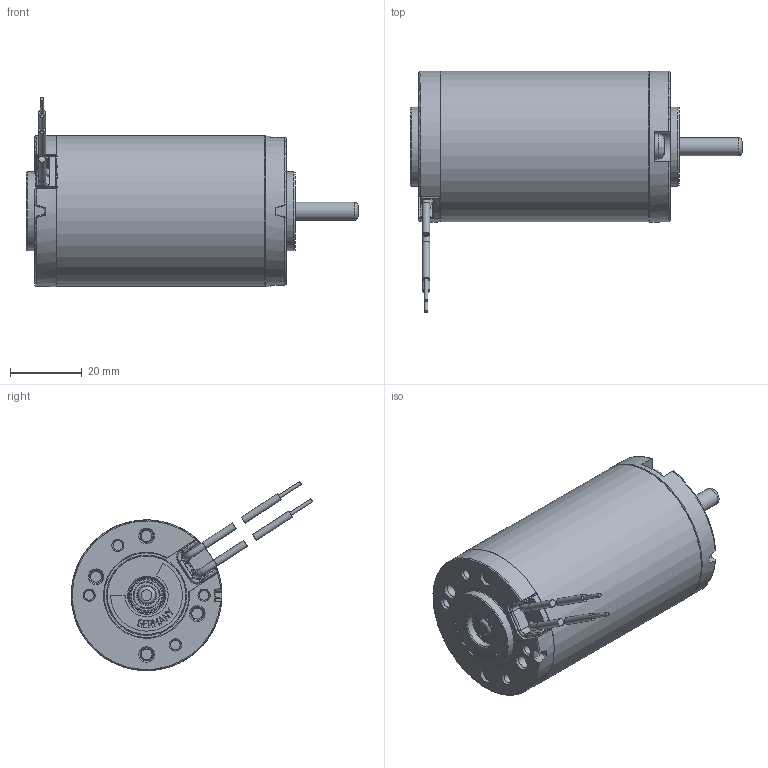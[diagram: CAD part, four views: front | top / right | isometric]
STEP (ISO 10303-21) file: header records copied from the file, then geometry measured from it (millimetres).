
FILE_DESCRIPTION(/* description */ (''),/* implementation_level */ '2;1');
FILE_NAME(/* name */ 'M42x15.stp',/* time_stamp */ '2014-02-27T10:40:20+01:00',/* author */ ('KÃ¤hlig'),/* organization */ ('KÃ¤hlig Antriebstechnik GmbH'),/* preprocessor_version */ 'ST-DEVELOPER v11',/* originating_system */ 'SIEMENS UGS NX 6.0',/* authorisation */ 'Weitergabe an dritte nicht zulÃ¤ssig');
FILE_SCHEMA (('AUTOMOTIVE_DESIGN { 1 0 10303 214 1 1 1 1 }'));
Length unit declared in the file: millimetre
Products named in the file (1): Schi3A10n9jt
Bounding box: 92.5 x 67.3 x 52.72 mm (x, y, z)
Volume: 39315.1 mm3; surface area: 36535.1 mm2
Topology: 19 solids, 19 shells, 2379 faces, 5784 edges, 3705 vertices
Faces by surface type: plane 1626, cylinder 408, torus 168, cone 85, bspline 43, sphere 37, extrusion 12
Full cylindrical faces by diameter (mm): 1 x4, 1.2 x4, 1.5 x1, 2 x6, 2.5 x4, 2.7 x6, 3 x4, 3.3 x6, 3.4 x2, 3.6 x4, 3.9 x2, 4 x4, 4.2 x2, 5 x3, 7 x2, 7.05 x4, 7.507 x2, 9.54 x4, 10 x2, 11 x1, 12.517 x2, 13.2 x2, 15.8 x1, 16 x2, 16.5 x1, 18.4 x1, 19 x1, 22 x2, 23.5 x1, 38 x1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
Entity records: 76766 total; most frequent: CARTESIAN_POINT 21219, ORIENTED_EDGE 10994, DIRECTION 10774, EDGE_CURVE 5497, VECTOR 3878, LINE 3866, VERTEX_POINT 3646, AXIS2_PLACEMENT_3D 3448
